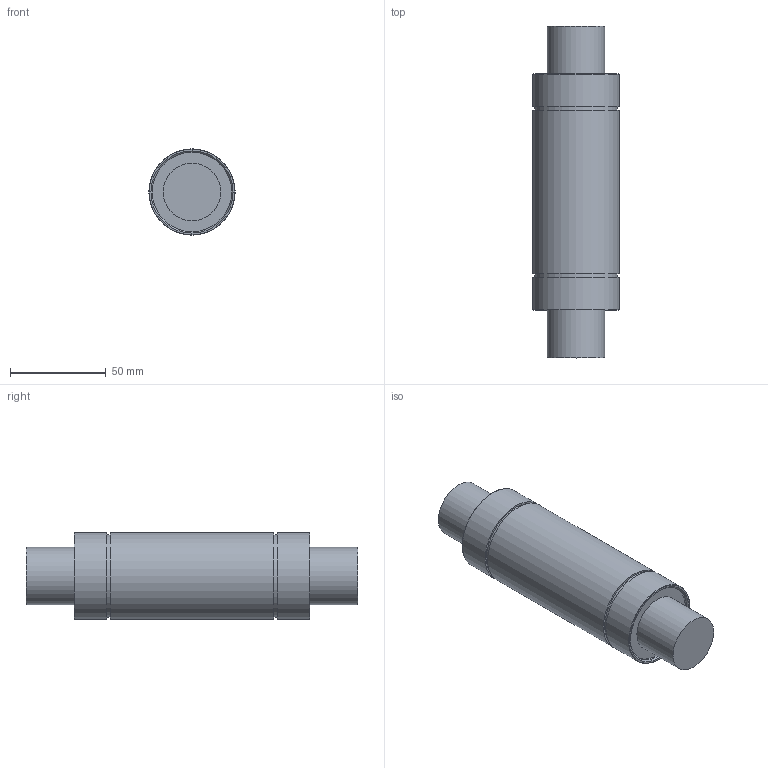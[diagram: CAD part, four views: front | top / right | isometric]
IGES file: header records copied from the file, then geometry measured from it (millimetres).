
Global section: file name: No Iges File Name specified; native system: Autodesk Inventor 2012; preprocessor: AutoDesk Inventor Iges Exporter R2012; author: user2; date: 20130206.102231; units: millimetre
Bounding box: 45 x 173 x 45 mm (x, y, z)
Volume: 228341.9 mm3; surface area: 26399.7 mm2
Topology: 1 solids, 1 shells, 23 faces, 37 edges, 24 vertices
Faces by surface type: plane 10, cylinder 7, revolution 4, torus 2
Full cylindrical faces by diameter (mm): 30 x2, 43 x2, 45 x3
